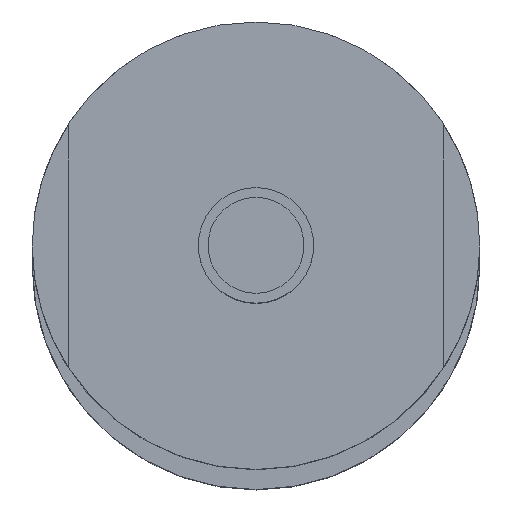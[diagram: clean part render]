
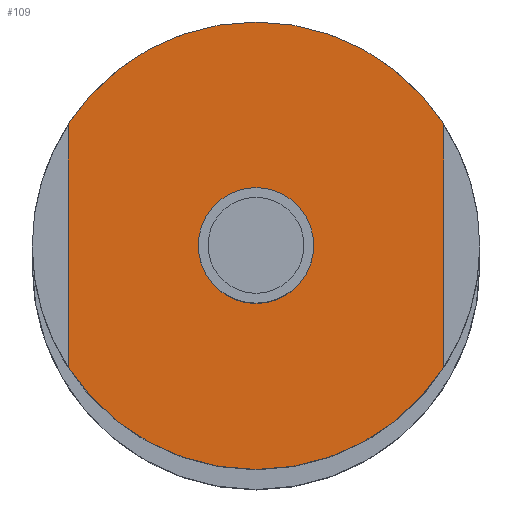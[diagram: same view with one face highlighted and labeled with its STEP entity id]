
A CAD part, top view. The second image highlights one B-rep face of the part: STEP entity #109.
In plain terms, the highlighted planar face has unit normal (0, 0, 1).
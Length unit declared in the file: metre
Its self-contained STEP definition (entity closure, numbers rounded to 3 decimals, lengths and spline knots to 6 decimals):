
#109=ADVANCED_FACE('49:12031',(#216,#217),#218,.T.);
#216=FACE_BOUND('',#334,.T.);
#217=FACE_OUTER_BOUND('',#335,.T.);
#218=PLANE('',#336);
#334=EDGE_LOOP('',(#528,#529,#530));
#335=EDGE_LOOP('',(#531,#532,#533,#534,#535,#536));
#336=AXIS2_PLACEMENT_3D('',#537,#538,#539);
#528=ORIENTED_EDGE('',*,*,#708,.T.);
#529=ORIENTED_EDGE('',*,*,#645,.T.);
#530=ORIENTED_EDGE('',*,*,#709,.T.);
#531=ORIENTED_EDGE('',*,*,#706,.T.);
#532=ORIENTED_EDGE('',*,*,#653,.F.);
#533=ORIENTED_EDGE('',*,*,#652,.F.);
#534=ORIENTED_EDGE('',*,*,#702,.F.);
#535=ORIENTED_EDGE('',*,*,#710,.F.);
#536=ORIENTED_EDGE('',*,*,#711,.F.);
#537=CARTESIAN_POINT('',(0.0,0.0,3.205));
#538=DIRECTION('',(0.0,0.0,1.0));
#539=DIRECTION('',(1.0,0.0,0.0));
#645=EDGE_CURVE('',#757,#761,#763,.T.);
#652=EDGE_CURVE('49:12076',#774,#776,#777,.F.);
#653=EDGE_CURVE('49:12057',#776,#778,#779,.F.);
#702=EDGE_CURVE('49:13760',#849,#774,#851,.T.);
#706=EDGE_CURVE('49:13767',#853,#778,#857,.T.);
#708=EDGE_CURVE('49:9096',#859,#757,#860,.T.);
#709=EDGE_CURVE('',#761,#859,#861,.T.);
#710=EDGE_CURVE('49:12070',#862,#849,#863,.F.);
#711=EDGE_CURVE('49:12060',#853,#862,#864,.F.);
#757=VERTEX_POINT('',#934);
#761=VERTEX_POINT('',#939);
#763=CIRCLE('',#942,0.004);
#774=VERTEX_POINT('',#955);
#776=VERTEX_POINT('',#958);
#777=CIRCLE('',#959,0.0155);
#778=VERTEX_POINT('',#960);
#779=CIRCLE('',#961,0.0155);
#849=VERTEX_POINT('',#1047);
#851=LINE('',#1050,#1051);
#853=VERTEX_POINT('',#1053);
#857=LINE('',#1059,#1060);
#859=VERTEX_POINT('',#1062);
#860=CIRCLE('',#1063,0.004);
#861=CIRCLE('',#1064,0.004);
#862=VERTEX_POINT('',#1065);
#863=CIRCLE('',#1066,0.0155);
#864=CIRCLE('',#1067,0.0155);
#934=CARTESIAN_POINT('',(0.003908,0.000095,3.205));
#939=CARTESIAN_POINT('',(-0.004092,0.000095,3.205));
#942=AXIS2_PLACEMENT_3D('',#1148,#1149,#1150);
#955=CARTESIAN_POINT('',(-0.013092,0.008536,3.205));
#958=CARTESIAN_POINT('',(-0.000092,0.015595,3.205));
#959=AXIS2_PLACEMENT_3D('',#1160,#1161,#1162);
#960=CARTESIAN_POINT('',(0.012908,0.008536,3.205));
#961=AXIS2_PLACEMENT_3D('',#1163,#1164,#1165);
#1047=CARTESIAN_POINT('',(-0.013092,-0.008346,3.205));
#1050=CARTESIAN_POINT('',(-0.013092,-0.015405,3.205));
#1051=VECTOR('',#1234,1.0);
#1053=CARTESIAN_POINT('',(0.012908,-0.008346,3.205));
#1059=CARTESIAN_POINT('',(0.012908,-0.015405,3.205));
#1060=VECTOR('',#1237,1.0);
#1062=CARTESIAN_POINT('',(-0.000092,0.004095,3.205));
#1063=AXIS2_PLACEMENT_3D('',#1238,#1239,#1240);
#1064=AXIS2_PLACEMENT_3D('',#1241,#1242,#1243);
#1065=CARTESIAN_POINT('',(-0.000092,-0.015405,3.205));
#1066=AXIS2_PLACEMENT_3D('',#1244,#1245,#1246);
#1067=AXIS2_PLACEMENT_3D('',#1247,#1248,#1249);
#1148=CARTESIAN_POINT('',(-0.000092,0.000095,3.205));
#1149=DIRECTION('',(0.0,0.0,-1.0));
#1150=DIRECTION('',(1.0,0.0,0.0));
#1160=CARTESIAN_POINT('',(-0.000092,0.000095,3.205));
#1161=DIRECTION('',(0.0,0.0,1.0));
#1162=DIRECTION('',(1.0,0.0,0.0));
#1163=CARTESIAN_POINT('',(-0.000092,0.000095,3.205));
#1164=DIRECTION('',(0.0,0.0,1.0));
#1165=DIRECTION('',(1.0,0.0,0.0));
#1234=DIRECTION('',(0.,1.0,0.0));
#1237=DIRECTION('',(0.,1.0,0.0));
#1238=CARTESIAN_POINT('',(-0.000092,0.000095,3.205));
#1239=DIRECTION('',(0.0,0.0,-1.0));
#1240=DIRECTION('',(1.0,0.0,0.0));
#1241=CARTESIAN_POINT('',(-0.000092,0.000095,3.205));
#1242=DIRECTION('',(0.0,0.0,-1.0));
#1243=DIRECTION('',(1.0,0.0,0.0));
#1244=CARTESIAN_POINT('',(-0.000092,0.000095,3.205));
#1245=DIRECTION('',(0.0,0.0,1.0));
#1246=DIRECTION('',(1.0,0.0,0.0));
#1247=CARTESIAN_POINT('',(-0.000092,0.000095,3.205));
#1248=DIRECTION('',(0.0,0.0,1.0));
#1249=DIRECTION('',(1.0,0.0,0.0));
